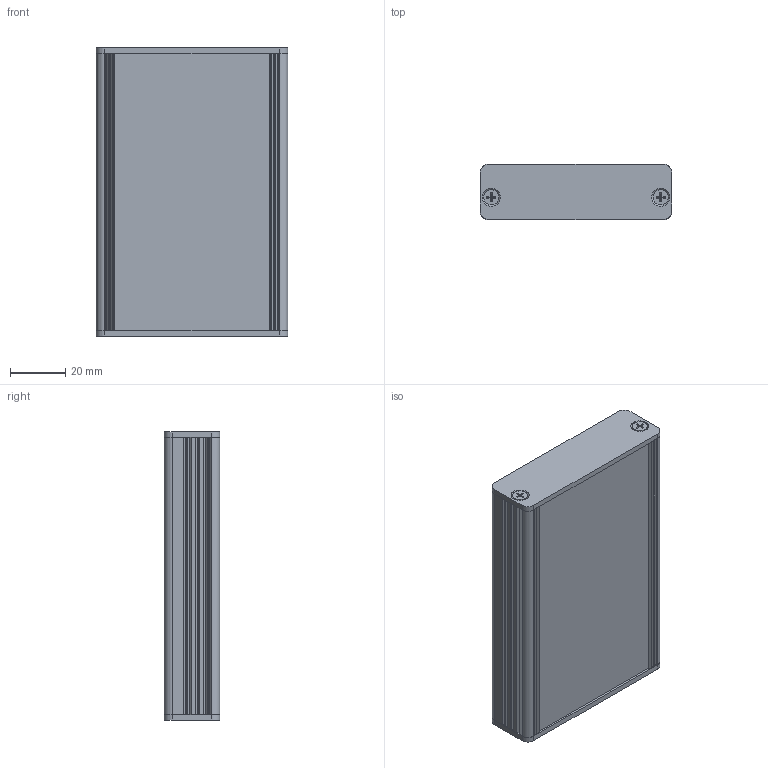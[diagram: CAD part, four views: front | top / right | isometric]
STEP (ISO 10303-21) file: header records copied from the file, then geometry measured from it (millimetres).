
FILE_DESCRIPTION((''),'2;1');
FILE_NAME('C:\Dokumente und Einstellungen\Lochen\Desktop\AKG\AKG_69_20_100.stp','2015-01-15T13:47:46',('Lochen'),(''),'Autodesk Inventor 2012','Autodesk Inventor 2012','');
FILE_SCHEMA(('AUTOMOTIVE_DESIGN { 1 0 10303 214 1 1 1 1 }'));
Length unit declared in the file: millimetre
Products named in the file (5): 001037226; 001032093; 001032098; L0015SGD000016A; DIN EN ISO 7046-1 H M3 x 10 - 4.8 - H
Assembly tree (8 placements, depth 2):
  001037226
    001032093
    001032098
    L0015SGD000016A  x2
    DIN EN ISO 7046-1 H M3 x 10 - 4.8 - H  x4
Bounding box: 69.1 x 20.02 x 104 mm (x, y, z)
Volume: 34901.2 mm3; surface area: 46777.8 mm2
Topology: 8 solids, 8 shells, 357 faces, 995 edges, 654 vertices
Faces by surface type: plane 145, cylinder 140, cone 52, torus 20
Full cylindrical faces by diameter (mm): 2.693 x4, 3 x4, 3.4 x4, 5.5 x4
Entity records: 8554 total; most frequent: CARTESIAN_POINT 1583, DIRECTION 1495, ORIENTED_EDGE 1426, EDGE_CURVE 713, AXIS2_PLACEMENT_3D 536, VERTEX_POINT 480, VECTOR 423, LINE 423
